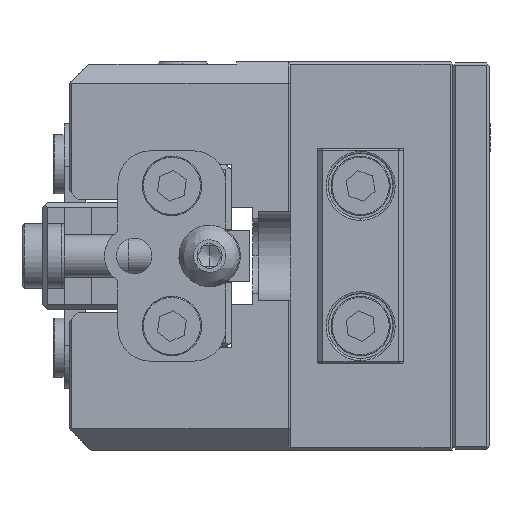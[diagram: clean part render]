
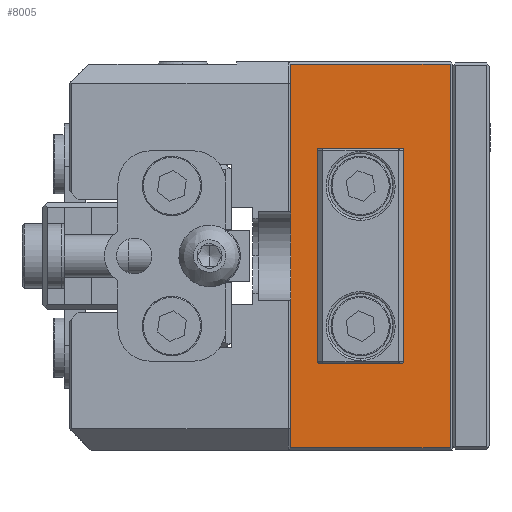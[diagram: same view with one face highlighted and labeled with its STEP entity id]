
A CAD part, left-side view. The second image highlights one B-rep face of the part: STEP entity #8005.
In plain terms, the highlighted planar face has unit normal (-1, 0, 0).
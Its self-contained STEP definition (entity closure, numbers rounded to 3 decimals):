
#286 = DIRECTION ( 'NONE',  ( 0., 0., 1. ) ) ;
#739 = CARTESIAN_POINT ( 'NONE',  ( -15.631, 12., -23.908 ) ) ;
#844 = VERTEX_POINT ( 'NONE', #43167 ) ;
#981 = DIRECTION ( 'NONE',  ( 0., 1., 0. ) ) ;
#1096 = CIRCLE ( 'NONE', #32415, 1.25 ) ;
#2274 = ORIENTED_EDGE ( 'NONE', *, *, #27727, .F. ) ;
#2511 = DIRECTION ( 'NONE',  ( 0., 0., 1. ) ) ;
#2593 = AXIS2_PLACEMENT_3D ( 'NONE', #19024, #37428, #4690 ) ;
#2975 = AXIS2_PLACEMENT_3D ( 'NONE', #739, #29872, #4797 ) ;
#4690 = DIRECTION ( 'NONE',  ( 0., 0., -1. ) ) ;
#4797 = DIRECTION ( 'NONE',  ( 0., 0., 1. ) ) ;
#5047 = EDGE_LOOP ( 'NONE', ( #35689, #17016, #7597, #16252 ) ) ;
#5164 = CARTESIAN_POINT ( 'NONE',  ( -15.631, 12., -9.658 ) ) ;
#5565 = VECTOR ( 'NONE', #43997, 1000. ) ;
#5761 = EDGE_LOOP ( 'NONE', ( #33467, #33837 ) ) ;
#5854 = LINE ( 'NONE', #12773, #15789 ) ;
#7401 = CARTESIAN_POINT ( 'NONE',  ( -15.631, 3.7, 0.392 ) ) ;
#7597 = ORIENTED_EDGE ( 'NONE', *, *, #21352, .F. ) ;
#8005 = ADVANCED_FACE ( 'NONE', ( #8049, #22625, #37192 ), #11847, .F. ) ;
#8049 = FACE_BOUND ( 'NONE', #5761, .T. ) ;
#8560 = EDGE_CURVE ( 'NONE', #14562, #34283, #42934, .T. ) ;
#10094 = DIRECTION ( 'NONE',  ( -1., 0., 0. ) ) ;
#10727 = DIRECTION ( 'NONE',  ( -1., 0., 0. ) ) ;
#11847 = PLANE ( 'NONE',  #2593 ) ;
#12773 = CARTESIAN_POINT ( 'NONE',  ( -15.631, 18.5, 0.592 ) ) ;
#14562 = VERTEX_POINT ( 'NONE', #37727 ) ;
#15789 = VECTOR ( 'NONE', #2511, 1000. ) ;
#15937 = CARTESIAN_POINT ( 'NONE',  ( -15.631, 12., -22.658 ) ) ;
#16252 = ORIENTED_EDGE ( 'NONE', *, *, #35943, .F. ) ;
#17016 = ORIENTED_EDGE ( 'NONE', *, *, #23821, .F. ) ;
#18272 = VERTEX_POINT ( 'NONE', #7401 ) ;
#18669 = LINE ( 'NONE', #41359, #35345 ) ;
#19024 = CARTESIAN_POINT ( 'NONE',  ( -15.631, 3.5, 0.592 ) ) ;
#19367 = VERTEX_POINT ( 'NONE', #41812 ) ;
#20093 = AXIS2_PLACEMENT_3D ( 'NONE', #23201, #22506, #286 ) ;
#20419 = LINE ( 'NONE', #27595, #27713 ) ;
#21352 = EDGE_CURVE ( 'NONE', #844, #37657, #5854, .T. ) ;
#22506 = DIRECTION ( 'NONE',  ( -1., 0., 0. ) ) ;
#22625 = FACE_OUTER_BOUND ( 'NONE', #5047, .T. ) ;
#23201 = CARTESIAN_POINT ( 'NONE',  ( -15.631, 12., -23.908 ) ) ;
#23319 = VERTEX_POINT ( 'NONE', #15937 ) ;
#23821 = EDGE_CURVE ( 'NONE', #37657, #18272, #20419, .T. ) ;
#27595 = CARTESIAN_POINT ( 'NONE',  ( -15.631, 3.5, 0.392 ) ) ;
#27713 = VECTOR ( 'NONE', #35021, 1000. ) ;
#27727 = EDGE_CURVE ( 'NONE', #23319, #31906, #42679, .T. ) ;
#28841 = CARTESIAN_POINT ( 'NONE',  ( -15.631, 18.5, 0.392 ) ) ;
#29414 = EDGE_LOOP ( 'NONE', ( #2274, #34605 ) ) ;
#29415 = CARTESIAN_POINT ( 'NONE',  ( -15.631, 3.7, 0.592 ) ) ;
#29872 = DIRECTION ( 'NONE',  ( -1., 0., 0. ) ) ;
#30745 = AXIS2_PLACEMENT_3D ( 'NONE', #39414, #10727, #39180 ) ;
#30765 = CIRCLE ( 'NONE', #20093, 1.25 ) ;
#31906 = VERTEX_POINT ( 'NONE', #42788 ) ;
#32415 = AXIS2_PLACEMENT_3D ( 'NONE', #36373, #10094, #32571 ) ;
#32571 = DIRECTION ( 'NONE',  ( 0., 0., 1. ) ) ;
#33467 = ORIENTED_EDGE ( 'NONE', *, *, #46467, .F. ) ;
#33837 = ORIENTED_EDGE ( 'NONE', *, *, #8560, .F. ) ;
#34283 = VERTEX_POINT ( 'NONE', #5164 ) ;
#34605 = ORIENTED_EDGE ( 'NONE', *, *, #40531, .F. ) ;
#35021 = DIRECTION ( 'NONE',  ( 0., -1., 0. ) ) ;
#35345 = VECTOR ( 'NONE', #981, 1000. ) ;
#35689 = ORIENTED_EDGE ( 'NONE', *, *, #35758, .T. ) ;
#35758 = EDGE_CURVE ( 'NONE', #19367, #18272, #46899, .T. ) ;
#35943 = EDGE_CURVE ( 'NONE', #19367, #844, #18669, .T. ) ;
#36373 = CARTESIAN_POINT ( 'NONE',  ( -15.631, 12., -10.908 ) ) ;
#37192 = FACE_BOUND ( 'NONE', #29414, .T. ) ;
#37428 = DIRECTION ( 'NONE',  ( 1., 0., 0. ) ) ;
#37657 = VERTEX_POINT ( 'NONE', #28841 ) ;
#37727 = CARTESIAN_POINT ( 'NONE',  ( -15.631, 12., -12.158 ) ) ;
#39180 = DIRECTION ( 'NONE',  ( 0., 0., 1. ) ) ;
#39414 = CARTESIAN_POINT ( 'NONE',  ( -15.631, 12., -10.908 ) ) ;
#40531 = EDGE_CURVE ( 'NONE', #31906, #23319, #30765, .T. ) ;
#41359 = CARTESIAN_POINT ( 'NONE',  ( -15.631, 3.5, -35.208 ) ) ;
#41812 = CARTESIAN_POINT ( 'NONE',  ( -15.631, 3.7, -35.208 ) ) ;
#42679 = CIRCLE ( 'NONE', #2975, 1.25 ) ;
#42788 = CARTESIAN_POINT ( 'NONE',  ( -15.631, 12., -25.158 ) ) ;
#42934 = CIRCLE ( 'NONE', #30745, 1.25 ) ;
#43167 = CARTESIAN_POINT ( 'NONE',  ( -15.631, 18.5, -35.208 ) ) ;
#43997 = DIRECTION ( 'NONE',  ( 0., 0., 1. ) ) ;
#46467 = EDGE_CURVE ( 'NONE', #34283, #14562, #1096, .T. ) ;
#46899 = LINE ( 'NONE', #29415, #5565 ) ;
